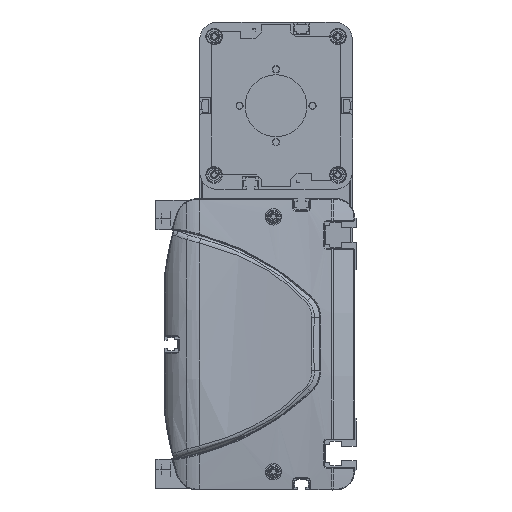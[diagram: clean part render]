
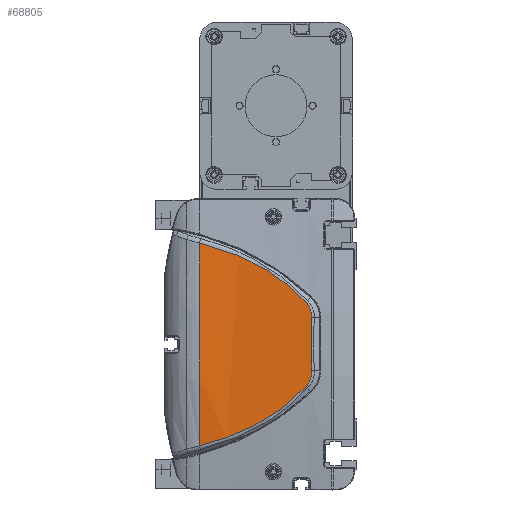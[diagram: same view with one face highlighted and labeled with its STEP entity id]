
A CAD part, left-side view. The second image highlights one B-rep face of the part: STEP entity #68805.
In plain terms, the highlighted cylindrical face has radius 600 mm (diameter 1200 mm), a partial arc.
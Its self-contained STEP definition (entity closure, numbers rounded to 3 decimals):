
#63824=CARTESIAN_POINT('',(-12.406,86.,
55.736));
#63825=CARTESIAN_POINT('',(-12.529,80.495,
54.41));
#63826=CARTESIAN_POINT('',(-12.828,69.636,
51.114));
#63827=CARTESIAN_POINT('',(-13.389,54.079,
44.179));
#63828=CARTESIAN_POINT('',(-14.01,39.709,
34.979));
#63829=CARTESIAN_POINT('',(-14.395,31.353,
27.243));
#63830=CARTESIAN_POINT('',(-14.555,27.451,
23.113));
#63832=CARTESIAN_POINT('',(-14.555,27.451,
23.113));
#63833=CARTESIAN_POINT('',(-14.641,25.336,
20.875));
#63834=CARTESIAN_POINT('',(-14.745,24.202,
17.745));
#63835=CARTESIAN_POINT('',(-14.821,24.351,
14.67));
#63837=CARTESIAN_POINT('',(-14.821,24.351,
14.67));
#63838=CARTESIAN_POINT('',(-14.9,24.51,
11.413));
#63839=CARTESIAN_POINT('',(-15.007,24.721,
4.895));
#63840=CARTESIAN_POINT('',(-15.007,24.721,
-4.895));
#63841=CARTESIAN_POINT('',(-14.9,24.51,
-11.413));
#63842=CARTESIAN_POINT('',(-14.821,24.351,
-14.67));
#63844=CARTESIAN_POINT('',(-14.821,24.351,
-14.67));
#63845=CARTESIAN_POINT('',(-14.745,24.202,
-17.745));
#63846=CARTESIAN_POINT('',(-14.641,25.337,
-20.876));
#63847=CARTESIAN_POINT('',(-14.555,27.451,
-23.113));
#63849=CARTESIAN_POINT('',(-14.555,27.451,
-23.113));
#63850=CARTESIAN_POINT('',(-14.395,31.353,
-27.243));
#63851=CARTESIAN_POINT('',(-14.01,39.709,
-34.979));
#63852=CARTESIAN_POINT('',(-13.389,54.079,
-44.179));
#63853=CARTESIAN_POINT('',(-12.828,69.636,
-51.114));
#63854=CARTESIAN_POINT('',(-12.529,80.495,
-54.41));
#63855=CARTESIAN_POINT('',(-12.406,86.,
-55.736));
#63857=CARTESIAN_POINT('',(585.,86.,0.));
#63858=DIRECTION('',(0.,1.,0.));
#63859=DIRECTION('',(-0.996,0.,-0.093));
#63860=AXIS2_PLACEMENT_3D('',#63857,#63858,#63859);
#63873=CARTESIAN_POINT('',(-12.406,86.,
55.736));
#64381=VERTEX_POINT('',#63873);
#64382=CARTESIAN_POINT('',(-12.406,86.,
-55.736));
#64383=VERTEX_POINT('',#64382);
#64435=VERTEX_POINT('',#63830);
#64436=VERTEX_POINT('',#63835);
#64437=VERTEX_POINT('',#63842);
#64438=VERTEX_POINT('',#63847);
#68787=CARTESIAN_POINT('',(585.,87.45,0.));
#68788=DIRECTION('',(0.,-1.,0.));
#68789=DIRECTION('',(0.,0.,-1.));
#68790=AXIS2_PLACEMENT_3D('',#68787,#68788,#68789);
#68791=CYLINDRICAL_SURFACE('',#68790,600.);
#68793=ORIENTED_EDGE('',*,*,#68792,.T.);
#68795=ORIENTED_EDGE('',*,*,#68794,.T.);
#68796=ORIENTED_EDGE('',*,*,#68777,.T.);
#68798=ORIENTED_EDGE('',*,*,#68797,.T.);
#68800=ORIENTED_EDGE('',*,*,#68799,.T.);
#68802=ORIENTED_EDGE('',*,*,#68801,.T.);
#68803=EDGE_LOOP('',(#68793,#68795,#68796,#68798,#68800,#68802));
#68804=FACE_OUTER_BOUND('',#68803,.F.);
#68805=ADVANCED_FACE('',(#68804),#68791,.T.);
#63831=B_SPLINE_CURVE_WITH_KNOTS('',3,(#63824,#63825,#63826,#63827,#63828,
#63829,#63830),.UNSPECIFIED.,.F.,.F.,(4,1,1,1,4),(0.,0.25,0.5,0.75,
1.),.UNSPECIFIED.);
#63836=B_SPLINE_CURVE_WITH_KNOTS('',3,(#63832,#63833,#63834,#63835),
.UNSPECIFIED.,.F.,.F.,(4,4),(0.,1.),.UNSPECIFIED.);
#63843=B_SPLINE_CURVE_WITH_KNOTS('',3,(#63837,#63838,#63839,#63840,#63841,
#63842),.UNSPECIFIED.,.F.,.F.,(4,1,1,4),(0.,0.333,
0.667,1.),.UNSPECIFIED.);
#63848=B_SPLINE_CURVE_WITH_KNOTS('',3,(#63844,#63845,#63846,#63847),
.UNSPECIFIED.,.F.,.F.,(4,4),(0.,1.),.UNSPECIFIED.);
#63856=B_SPLINE_CURVE_WITH_KNOTS('',3,(#63849,#63850,#63851,#63852,#63853,
#63854,#63855),.UNSPECIFIED.,.F.,.F.,(4,1,1,1,4),(0.,0.25,0.5,0.75,
1.),.UNSPECIFIED.);
#63861=CIRCLE('',#63860,600.);
#68777=EDGE_CURVE('',#64436,#64437,#63843,.T.);
#68792=EDGE_CURVE('',#64381,#64435,#63831,.T.);
#68794=EDGE_CURVE('',#64435,#64436,#63836,.T.);
#68797=EDGE_CURVE('',#64437,#64438,#63848,.T.);
#68799=EDGE_CURVE('',#64438,#64383,#63856,.T.);
#68801=EDGE_CURVE('',#64383,#64381,#63861,.T.);
